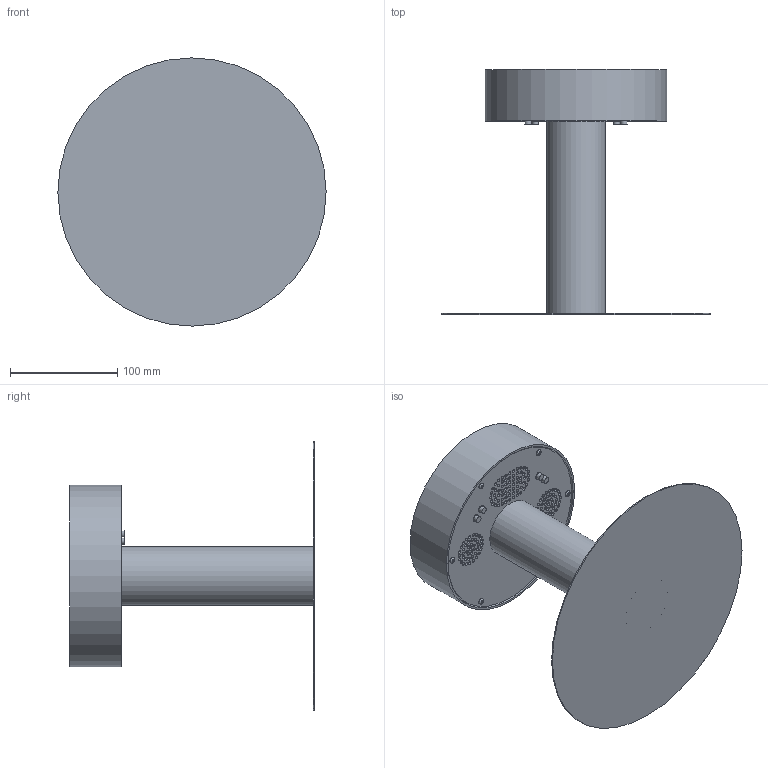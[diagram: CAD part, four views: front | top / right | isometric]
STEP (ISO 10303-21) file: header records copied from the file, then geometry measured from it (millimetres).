
FILE_DESCRIPTION(/* description */ (''),/* implementation_level */ '2;1');
FILE_NAME(/* name */ 'C:\Users\Giulia\Desktop\1845XX00 - POPUP.stp',/* time_stamp */ '2016-08-29T15:04:04+02:00',/* author */ ('Giulia'),/* organization */ (''),/* preprocessor_version */ 'ST-DEVELOPER v16.5',/* originating_system */ 'Autodesk Inventor 2017',/* authorisation */ '');
FILE_SCHEMA (('AUTOMOTIVE_DESIGN { 1 0 10303 214 3 1 1 }'));
Length unit declared in the file: millimetre
Products named in the file (1): 1845XX00 - POPUP
Bounding box: 250 x 228.17 x 250 mm (x, y, z)
Volume: 1289752 mm3; surface area: 254981.6 mm2
Topology: 7 solids, 7 shells, 339 faces, 1030 edges, 737 vertices
Faces by surface type: cylinder 185, plane 130, cone 12, torus 6, bspline 6
Full cylindrical faces by diameter (mm): 3 x159, 3.5 x6, 5.7 x6, 5.9 x4, 7 x4, 32 x1, 55 x1, 163 x1, 165 x1, 169 x1, 250 x1
Entity records: 10477 total; most frequent: CARTESIAN_POINT 1806, DIRECTION 1684, ORIENTED_EDGE 1316, EDGE_LOOP 890, AXIS2_PLACEMENT_3D 734, EDGE_CURVE 658, VERTEX_POINT 568, FACE_BOUND 551
